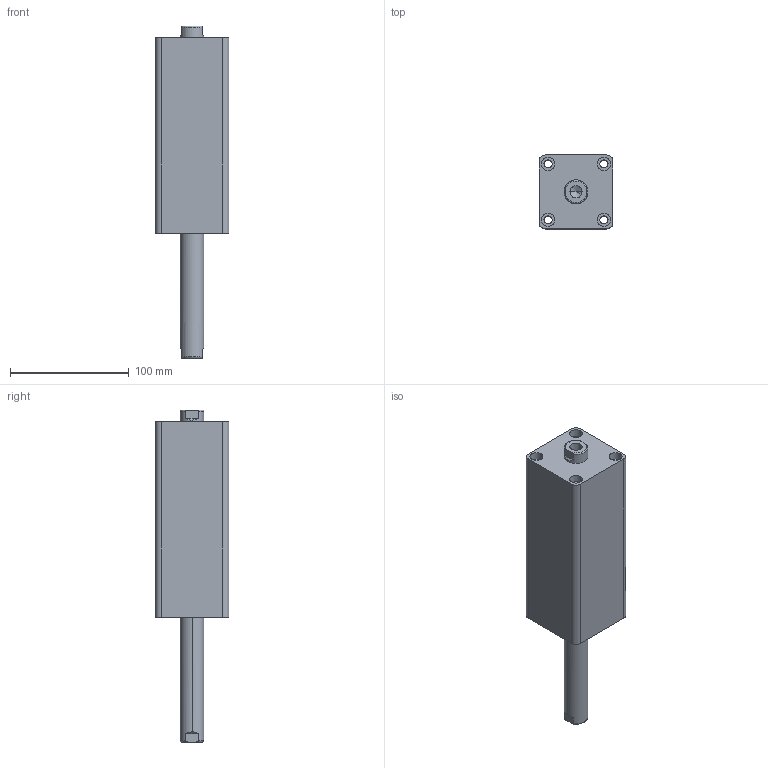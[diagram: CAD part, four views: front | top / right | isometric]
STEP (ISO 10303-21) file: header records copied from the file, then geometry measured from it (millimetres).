
FILE_DESCRIPTION (( 'STEP AP203' ), '1' );
FILE_NAME ('HTB-SW32-95N.STEP', '2019-10-07T09:00:13', ( '微软用户' ), ( '微软中国' ), 'SwSTEP 2.0', 'SolidWorks 2012', '' );
FILE_SCHEMA (( 'CONFIG_CONTROL_DESIGN' ));
Length unit declared in the file: millimetre
Products named in the file (3): HTB-SW32-95N; HTB-SW32-95N活塞杆; HTB-SW32-95掛极
Assembly tree (2 placements, depth 2):
  HTB-SW32-95N
    HTB-SW32-95掛极
    HTB-SW32-95N活塞杆
Bounding box: 62 x 62 x 279 mm (x, y, z)
Volume: 584433.3 mm3; surface area: 97606.8 mm2
Topology: 2 solids, 2 shells, 100 faces, 228 edges, 146 vertices
Faces by surface type: cylinder 48, plane 32, torus 12, cone 8
Entity records: 3237 total; most frequent: CARTESIAN_POINT 595, DIRECTION 542, ORIENTED_EDGE 448, AXIS2_PLACEMENT_3D 229, EDGE_CURVE 224, VERTEX_POINT 146, EDGE_LOOP 128, CIRCLE 124
